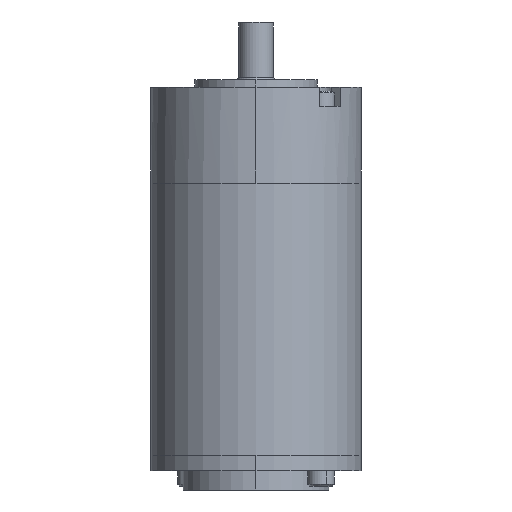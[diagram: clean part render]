
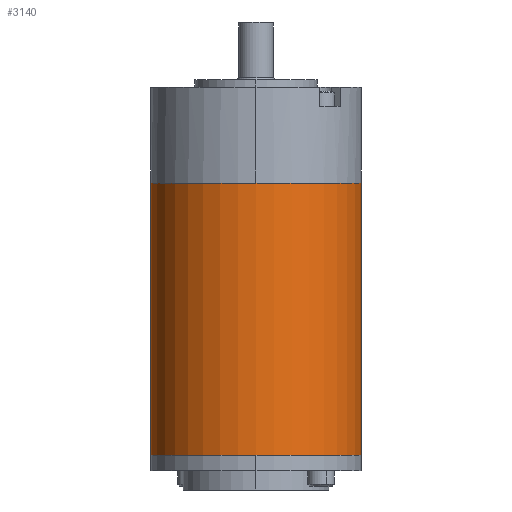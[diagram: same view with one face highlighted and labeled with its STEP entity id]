
A CAD part, front view. The second image highlights one B-rep face of the part: STEP entity #3140.
In plain terms, the highlighted cylindrical face has radius 27.5 mm (diameter 55 mm), a partial arc.
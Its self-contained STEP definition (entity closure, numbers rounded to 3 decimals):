
#38 = DIRECTION ( 'NONE',  ( 0., 0., 1. ) ) ;
#68 = CYLINDRICAL_SURFACE ( 'NONE', #6540, 27.5 ) ;
#83 = CARTESIAN_POINT ( 'NONE',  ( -27.5, 0., 71. ) ) ;
#133 = ORIENTED_EDGE ( 'NONE', *, *, #6520, .T. ) ;
#175 = DIRECTION ( 'NONE',  ( -1., 0., 0. ) ) ;
#186 = AXIS2_PLACEMENT_3D ( 'NONE', #3609, #38, #3108 ) ;
#378 = VERTEX_POINT ( 'NONE', #83 ) ;
#695 = DIRECTION ( 'NONE',  ( 0., 0., -1. ) ) ;
#994 = VERTEX_POINT ( 'NONE', #2768 ) ;
#1234 = EDGE_CURVE ( 'NONE', #378, #3174, #2262, .T. ) ;
#1558 = DIRECTION ( 'NONE',  ( 0., 0., 1. ) ) ;
#1703 = DIRECTION ( 'NONE',  ( 0., 0., -1. ) ) ;
#1885 = LINE ( 'NONE', #4244, #4875 ) ;
#1920 = EDGE_LOOP ( 'NONE', ( #2322, #3641, #3048, #133 ) ) ;
#2262 = CIRCLE ( 'NONE', #4180, 27.5 ) ;
#2266 = LINE ( 'NONE', #3918, #3803 ) ;
#2322 = ORIENTED_EDGE ( 'NONE', *, *, #4438, .F. ) ;
#2344 = CIRCLE ( 'NONE', #186, 27.5 ) ;
#2357 = DIRECTION ( 'NONE',  ( 0., 0., -1. ) ) ;
#2768 = CARTESIAN_POINT ( 'NONE',  ( -27.5, 0., 0. ) ) ;
#2784 = CARTESIAN_POINT ( 'NONE',  ( 27.5, 0., 71. ) ) ;
#3048 = ORIENTED_EDGE ( 'NONE', *, *, #3763, .T. ) ;
#3108 = DIRECTION ( 'NONE',  ( 1., 0., 0. ) ) ;
#3140 = ADVANCED_FACE ( 'NONE', ( #4425 ), #68, .T. ) ;
#3174 = VERTEX_POINT ( 'NONE', #2784 ) ;
#3267 = CARTESIAN_POINT ( 'NONE',  ( 0., 0., 79. ) ) ;
#3609 = CARTESIAN_POINT ( 'NONE',  ( 0., 0., 0. ) ) ;
#3641 = ORIENTED_EDGE ( 'NONE', *, *, #1234, .F. ) ;
#3763 = EDGE_CURVE ( 'NONE', #378, #994, #1885, .T. ) ;
#3803 = VECTOR ( 'NONE', #2357, 1000. ) ;
#3858 = CARTESIAN_POINT ( 'NONE',  ( 27.5, 0., 0. ) ) ;
#3918 = CARTESIAN_POINT ( 'NONE',  ( 27.5, 0., 79. ) ) ;
#4180 = AXIS2_PLACEMENT_3D ( 'NONE', #5148, #1558, #4627 ) ;
#4244 = CARTESIAN_POINT ( 'NONE',  ( -27.5, 0., 79. ) ) ;
#4425 = FACE_OUTER_BOUND ( 'NONE', #1920, .T. ) ;
#4438 = EDGE_CURVE ( 'NONE', #3174, #6321, #2266, .T. ) ;
#4627 = DIRECTION ( 'NONE',  ( 1., 0., 0. ) ) ;
#4875 = VECTOR ( 'NONE', #1703, 1000. ) ;
#5148 = CARTESIAN_POINT ( 'NONE',  ( 0., 0., 71. ) ) ;
#6321 = VERTEX_POINT ( 'NONE', #3858 ) ;
#6520 = EDGE_CURVE ( 'NONE', #994, #6321, #2344, .T. ) ;
#6540 = AXIS2_PLACEMENT_3D ( 'NONE', #3267, #695, #175 ) ;
